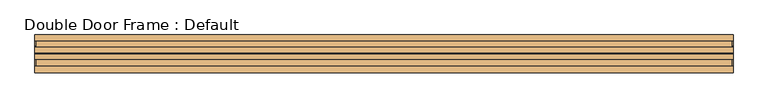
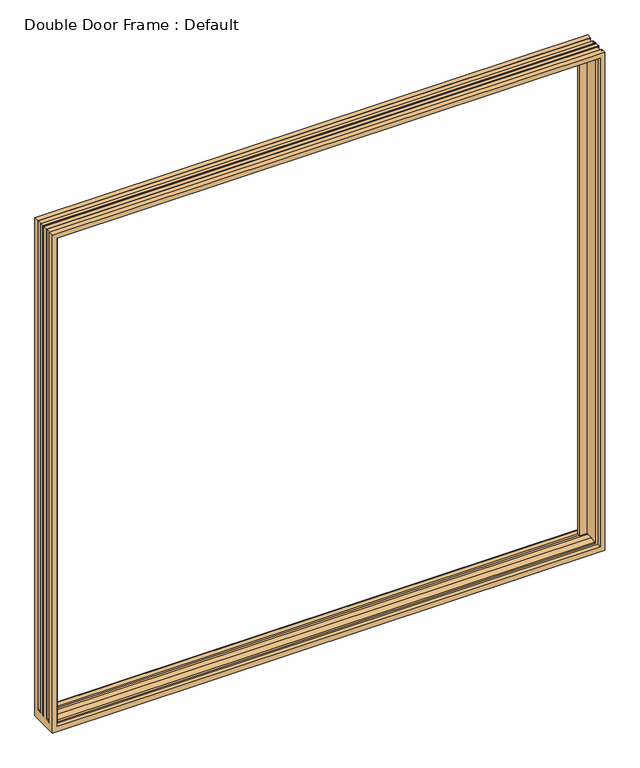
"""IFC4 building model written with IfcOpenShell, lengths in millimetres: door geometry, Double Door Frame : Default."""

from ifc_helpers import new_model, si_unit, frame, origin, place, context, project, spatial, polyline, circle_curve, ellipse_curve, source, transform, mapped, element, save
from ifc_brep_helpers import plane_surface, revolved_surface, advanced_brep


def double_door_frame_default_26f9a6da(model_context):
    return source(origin(), model_context, "Body", "AdvancedBrep", [
        advanced_brep(
        [(-1066.8, 115.8875, 0.0), (-1038.225, 115.8875, 0.0), (-1038.225, 114.3, 0.0), (1038.225, 114.3, 0.0), (1038.225, 115.8875, 0.0), (1066.8, 115.8875, 0.0), (1066.8, 0.0, 0.0), (-1066.8, 0.0, 0.0), (1066.8, 0.0, 2032.0), (-1066.8, 0.0, 2032.0), (1047.75, 0.0, 2012.95), (1047.75, 0.0, 20.6375), (-1047.75, 0.0, 20.6375), (-1047.75, 0.0, 2012.95), (-1066.8, 115.8875, 2032.0), (1066.8, 115.8875, 2032.0), (1038.225, 115.8875, 2003.425), (-1038.225, 115.8875, 2003.425), (-1038.225, 82.55, 2003.425), (-1038.225, 82.55, 36.3991071), (-1038.225, 103.1875, 34.925), (-1038.225, 114.3, 28.575), (1038.225, 82.55, 2003.425), (1038.225, 82.55, 36.3991071), (1009.65, 82.55, 36.3991071), (1009.65, 82.55, 1974.85), (-1009.65, 82.55, 1974.85), (-1009.65, 82.55, 36.3991071), (-1009.65, 69.85, 1974.85), (-1009.65, 69.85, 35.8775), (-1009.65, 73.025, 36.5125), (-1009.65, 80.9625, 36.5125), (1009.65, 69.85, 1974.85), (1009.65, 69.85, 35.8775), (1038.225, 69.85, 35.8775), (1038.225, 69.85, 2003.425), (-1038.225, 69.85, 2003.425), (-1038.225, 69.85, 35.8775), (-1038.225, 14.2875, 2003.425), (-1038.225, 14.2875, 28.575), (-1038.225, 19.05, 30.1625), (-1038.225, 41.275, 34.925), (-1038.225, 65.0875, 34.925), (1047.75, 14.2875, 2012.95), (-1047.75, 14.2875, 2012.95), (-1047.75, 14.2875, 22.225), (1047.75, 14.2875, 22.225), (1038.225, 14.2875, 2003.425), (1038.225, 14.2875, 28.575), (1038.225, 114.3, 28.575), (1038.225, 103.1875, 34.925), (1009.65, 80.9625, 36.5125), (1009.65, 73.025, 36.5125), (1038.225, 65.0875, 34.925), (1038.225, 41.275, 34.925), (1038.225, 19.05, 30.1625), (-1062.0375, 19.05, 30.1625), (-1064.815625, 19.05, 30.1625), (-1064.021875, 17.4625, 29.6333333), (-1062.0375, 17.4625, 29.6333333), (1064.815625, 19.05, 30.1625), (1062.0375, 19.05, 30.1625), (1062.0375, 17.4625, 29.6333333), (1064.021875, 17.4625, 29.6333333), (1066.8, 20.6375, 30.5026786), (1066.8, 41.275, 34.925), (1065.609375, 41.275, 34.925), (1062.0375, 41.275, 34.925), (1065.609375, 20.6375, 30.5026786), (-1066.8, 41.275, 34.925), (-1066.8, 20.6375, 30.5026786), (-1065.609375, 20.6375, 30.5026786), (-1062.0375, 41.275, 34.925), (-1065.609375, 41.275, 34.925), (1066.8, 57.15, 34.925), (1066.8, 61.9125, 34.925), (1065.2125, 61.9125, 34.925), (1065.2125, 57.15, 34.925), (-1066.8, 61.9125, 34.925), (-1066.8, 57.15, 34.925), (-1065.2125, 57.15, 34.925), (-1065.2125, 61.9125, 34.925), (-1062.0375, 44.45, 34.925), (-1064.021875, 44.45, 34.925), (1064.021875, 44.45, 34.925), (1062.0375, 44.45, 34.925), (1066.8, 77.7875, 36.5125), (1066.8, 80.9625, 36.5125), (1062.0375, 80.9625, 36.5125), (1062.0375, 74.6125, 36.5125), (1064.021875, 74.6125, 36.5125), (1065.609375, 77.7875, 36.5125), (-1066.8, 80.9625, 36.5125), (-1066.8, 77.7875, 36.5125), (-1065.609375, 77.7875, 36.5125), (-1064.021875, 74.6125, 36.5125), (-1062.0375, 74.6125, 36.5125), (-1062.0375, 80.9625, 36.5125), (1066.8, 98.425, 35.2651786), (1065.609375, 98.425, 35.2651786), (1064.021875, 101.6, 35.0383929), (1062.0375, 101.6, 35.0383929), (-1066.8, 98.425, 35.2651786), (-1062.0375, 101.6, 35.0383929), (-1064.021875, 101.6, 35.0383929), (-1065.609375, 98.425, 35.2651786), (1066.8, 98.425, 2032.0), (1066.8, 77.7875, 2032.0), (1066.8, 61.9125, 2032.0), (1066.8, 57.15, 2032.0), (1066.8, 41.275, 2032.0), (1066.8, 20.6375, 2032.0), (-1066.8, 20.6375, 2032.0), (-1066.8, 41.275, 2032.0), (-1066.8, 57.15, 2032.0), (-1066.8, 61.9125, 2032.0), (-1066.8, 77.7875, 2032.0), (-1066.8, 98.425, 2032.0), (-1065.609375, 20.6375, 2030.809375), (-1064.021875, 17.4625, 2029.221875), (1064.021875, 17.4625, 2029.221875), (1062.0375, 17.4625, 2027.2375), (-1062.0375, 17.4625, 2027.2375), (-1062.0375, 44.45, 2027.2375), (1062.0375, 44.45, 2027.2375), (1065.609375, 20.6375, 2030.809375), (-1065.609375, 41.275, 2030.809375), (1065.609375, 41.275, 2030.809375), (1065.2125, 57.15, 2030.4125), (-1065.2125, 57.15, 2030.4125), (-1065.2125, 61.9125, 2030.4125), (1065.2125, 61.9125, 2030.4125), (1064.021875, 44.45, 2029.221875), (-1064.021875, 44.45, 2029.221875), (1065.609375, 77.7875, 2030.809375), (-1065.609375, 77.7875, 2030.809375), (-1064.021875, 74.6125, 2029.221875), (1064.021875, 74.6125, 2029.221875), (1062.0375, 74.6125, 2027.2375), (-1062.0375, 74.6125, 2027.2375), (-1062.0375, 101.6, 2027.2375), (1062.0375, 101.6, 2027.2375), (1064.021875, 101.6, 2029.221875), (-1064.021875, 101.6, 2029.221875), (-1065.609375, 98.425, 2030.809375), (1065.609375, 98.425, 2030.809375)],
        [
            (0, 1),
            (1, 2),
            (2, 3),
            (3, 4),
            (4, 5),
            (5, 6),
            (6, 7),
            (7, 0),
            (6, 8),
            (8, 9),
            (9, 7),
            (10, 11),
            (11, 12),
            (12, 13),
            (13, 10),
            (0, 14),
            (14, 15),
            (15, 5),
            (4, 16),
            (16, 17),
            (17, 1),
            (17, 18),
            (18, 19),
            (19, 20),
            (20, 21),
            (21, 2),
            (18, 22),
            (22, 23),
            (23, 24),
            (24, 25),
            (25, 26),
            (26, 27),
            (27, 19),
            (26, 28),
            (28, 29),
            (29, 30),
            (30, 31),
            (31, 27),
            (28, 32),
            (32, 33),
            (33, 34),
            (34, 35),
            (35, 36),
            (36, 37),
            (37, 29),
            (36, 38),
            (38, 39),
            (39, 40),
            (40, 41),
            (41, 42),
            (42, 37),
            (43, 44),
            (44, 45),
            (45, 46),
            (46, 43),
            (38, 47),
            (47, 48),
            (48, 39),
            (44, 13),
            (12, 45),
            (10, 43),
            (46, 11),
            (3, 49),
            (49, 50),
            (50, 23),
            (22, 16),
            (32, 25),
            (24, 51),
            (51, 52),
            (52, 33),
            (47, 35),
            (34, 53),
            (53, 54),
            (54, 55),
            (55, 48),
            (21, 49),
            (55, 40),
            (56, 57),
            (57, 58),
            (58, 59),
            (59, 56),
            (60, 61),
            (61, 62),
            (62, 63),
            (63, 60),
            (54, 41),
            (64, 65),
            (65, 66),
            (66, 67),
            (67, 61),
            (60, 68),
            (68, 64),
            (69, 70),
            (70, 71),
            (71, 57),
            (56, 72),
            (72, 73),
            (73, 69),
            (74, 75),
            (75, 76),
            (76, 77, circle_curve(frame((1061.088054, 59.53125, 34.925), z_axis=(0.0, 0.0, 1.0), x_axis=(1.0, 0.0, 0.0)), 4.7625)),
            (77, 74),
            (78, 79),
            (79, 80),
            (80, 81, circle_curve(frame((-1061.088054, 59.53125, 34.925), z_axis=(0.0, 0.0, 1.0), x_axis=(-1.0, 0.0, 0.0)), 4.7625)),
            (81, 78),
            (53, 42),
            (72, 82),
            (82, 83),
            (83, 73),
            (66, 84),
            (84, 85),
            (85, 67),
            (52, 30),
            (51, 31),
            (86, 87),
            (87, 88),
            (88, 89),
            (89, 90),
            (90, 91),
            (91, 86),
            (92, 93),
            (93, 94),
            (94, 95),
            (95, 96),
            (96, 97),
            (97, 92),
            (50, 20),
            (87, 98),
            (98, 99),
            (99, 100),
            (100, 101),
            (101, 88),
            (102, 92),
            (97, 103),
            (103, 104),
            (104, 105),
            (105, 102),
            (15, 106),
            (106, 98),
            (86, 107),
            (107, 108),
            (108, 75),
            (74, 109),
            (109, 110),
            (110, 65),
            (64, 111),
            (111, 8),
            (9, 112),
            (112, 70),
            (69, 113),
            (113, 114),
            (114, 79),
            (78, 115),
            (115, 116),
            (116, 93),
            (102, 117),
            (117, 14),
            (118, 119),
            (119, 58),
            (71, 118),
            (119, 120),
            (120, 63),
            (62, 121),
            (121, 122),
            (122, 59),
            (122, 123),
            (123, 82),
            (124, 121),
            (85, 124),
            (120, 125),
            (125, 68),
            (112, 111),
            (125, 118),
            (126, 127),
            (127, 66),
            (110, 113),
            (73, 126),
            (114, 109),
            (77, 128),
            (128, 129),
            (129, 80),
            (129, 130, ellipse_curve(frame((-1061.088054, 59.53125, 2026.288054), z_axis=(0.7071067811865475, 0.0, 0.7071067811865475), x_axis=(-0.7071067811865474, 0.0, 0.7071067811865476)), 6.7351921, 4.7625)),
            (130, 81),
            (130, 131),
            (131, 76),
            (108, 115),
            (131, 128, ellipse_curve(frame((1061.088054, 59.53125, 2026.288054), z_axis=(-0.7071067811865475, 0.0, 0.7071067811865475), x_axis=(-0.7071067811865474, 0.0, -0.7071067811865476)), 6.7351921, 4.7625)),
            (123, 124),
            (84, 132),
            (132, 133),
            (133, 83),
            (133, 126),
            (127, 132),
            (116, 107),
            (91, 134),
            (134, 135),
            (135, 94),
            (135, 136),
            (136, 95),
            (136, 137),
            (137, 90),
            (89, 138),
            (138, 139),
            (139, 96),
            (139, 140),
            (140, 103),
            (141, 138),
            (101, 141),
            (137, 134),
            (140, 141),
            (100, 142),
            (142, 143),
            (143, 104),
            (143, 144),
            (144, 105),
            (144, 145),
            (145, 99),
            (106, 117),
            (145, 142),
        ],
        [
            plane_surface(frame((-1066.8, 0.0, 0.0), z_axis=(0.0, 0.0, -1.0), x_axis=(0.0, -1.0, 0.0))),
            plane_surface(frame((-1047.75, 0.0, 0.0), z_axis=(0.0, -1.0, 0.0), x_axis=(0.0, 0.0, 1.0))),
            plane_surface(frame((-1066.8, 115.8875, 0.0), z_axis=(0.0, 1.0, 0.0), x_axis=(0.0, 0.0, 1.0))),
            plane_surface(frame((-1038.225, 115.8875, 0.0), z_axis=(1.0, 0.0, 0.0), x_axis=(0.0, 0.0, 1.0))),
            plane_surface(frame((-1038.225, 82.55, 0.0), z_axis=(0.0, 1.0, 0.0), x_axis=(0.0, 0.0, 1.0))),
            plane_surface(frame((-1009.65, 82.55, 0.0), z_axis=(1.0, 0.0, 0.0), x_axis=(0.0, 0.0, 1.0))),
            plane_surface(frame((-1009.65, 69.85, 0.0), z_axis=(0.0, -1.0, 0.0), x_axis=(0.0, 0.0, 1.0))),
            plane_surface(frame((-1038.225, 69.85, 0.0), z_axis=(1.0, 0.0, 0.0), x_axis=(0.0, 0.0, 1.0))),
            plane_surface(frame((-1038.225, 14.2875, 0.0), z_axis=(0.0, -1.0, 0.0), x_axis=(0.0, 0.0, 1.0))),
            plane_surface(frame((-1047.75, 14.2875, 0.0), z_axis=(1.0, 0.0, 0.0), x_axis=(0.0, 0.0, 1.0))),
            plane_surface(frame((1047.75, 14.2875, 2012.95), z_axis=(-1.0, 0.0, 0.0), x_axis=(0.0, 0.0, -1.0))),
            plane_surface(frame((1038.225, 115.8875, 2003.425), z_axis=(-1.0, 0.0, 0.0), x_axis=(0.0, 0.0, -1.0))),
            plane_surface(frame((1009.65, 82.55, 1974.85), z_axis=(-1.0, 0.0, 0.0), x_axis=(0.0, 0.0, -1.0))),
            plane_surface(frame((1038.225, 69.85, 2003.425), z_axis=(-1.0, 0.0, 0.0), x_axis=(0.0, 0.0, -1.0))),
            plane_surface(frame((-1038.225, 115.8875, 2003.425), z_axis=(0.0, 0.0, -1.0), x_axis=(1.0, 0.0, 0.0))),
            plane_surface(frame((-1009.65, 82.55, 1974.85), z_axis=(0.0, 0.0, -1.0), x_axis=(1.0, 0.0, 0.0))),
            plane_surface(frame((-1038.225, 69.85, 2003.425), z_axis=(0.0, 0.0, -1.0), x_axis=(1.0, 0.0, 0.0))),
            plane_surface(frame((-1047.75, 14.2875, 2012.95), z_axis=(0.0, 0.0, -1.0), x_axis=(1.0, 0.0, 0.0))),
            plane_surface(frame((-1066.8, 114.3, 28.575), z_axis=(0.0, 1.0, 0.0), x_axis=(1.0, 0.0, 0.0))),
            plane_surface(frame((-1066.8, 0.0, 20.6375), z_axis=(0.0, -0.11043152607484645, 0.993883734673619), x_axis=(1.0, 0.0, 0.0))),
            plane_surface(frame((-1066.8, 14.2875, 28.575), z_axis=(0.0, -0.3162277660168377, 0.948683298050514), x_axis=(1.0, 0.0, 0.0))),
            plane_surface(frame((-1066.8, 19.05, 30.1625), z_axis=(0.0, -0.20952908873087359, 0.9778024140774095), x_axis=(1.0, 0.0, 0.0))),
            plane_surface(frame((-1066.8, 41.275, 34.925), z_axis=(0.0, 0.0, 1.0), x_axis=(1.0, 0.0, 0.0))),
            plane_surface(frame((-1066.8, 65.0875, 34.925), z_axis=(0.0, -0.19611613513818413, 0.9805806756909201), x_axis=(1.0, 0.0, 0.0))),
            plane_surface(frame((-1066.8, 73.025, 36.5125), z_axis=(0.0, 0.0, 1.0), x_axis=(1.0, 0.0, 0.0))),
            plane_surface(frame((-1066.8, 80.9625, 36.5125), z_axis=(0.0, 0.07124704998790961, 0.997458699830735), x_axis=(1.0, 0.0, 0.0))),
            plane_surface(frame((-1066.8, 103.1875, 34.925), z_axis=(0.0, 0.4961389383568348, 0.8682431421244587), x_axis=(1.0, 0.0, 0.0))),
            plane_surface(frame((1066.8, 0.0, 2032.0), z_axis=(1.0, 0.0, 0.0), x_axis=(0.0, 0.0, -1.0))),
            plane_surface(frame((-1066.8, 0.0, 0.0), z_axis=(-1.0, 0.0, 0.0), x_axis=(0.0, 0.0, 1.0))),
            plane_surface(frame((-1065.609375, 20.6375, 0.0), z_axis=(0.8944271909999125, 0.4472135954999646, 0.0), x_axis=(0.0, 0.0, 1.0))),
            plane_surface(frame((-1064.021875, 17.4625, 0.0), z_axis=(0.0, 1.0, 0.0), x_axis=(0.0, 0.0, 1.0))),
            plane_surface(frame((-1062.0375, 17.4625, 0.0), z_axis=(-1.0, 0.0, 0.0), x_axis=(0.0, 0.0, 1.0))),
            plane_surface(frame((1062.0375, 17.4625, 2027.2375), z_axis=(1.0, 0.0, 0.0), x_axis=(0.0, 0.0, -1.0))),
            plane_surface(frame((1065.609375, 20.6375, 2030.809375), z_axis=(-0.8944271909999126, 0.44721359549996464, 0.0), x_axis=(0.0, 0.0, -1.0))),
            plane_surface(frame((-1066.8, 20.6375, 0.0), z_axis=(0.0, 1.0, 0.0), x_axis=(0.0, 0.0, 1.0))),
            plane_surface(frame((-1065.609375, 41.275, 0.0), z_axis=(0.0, -1.0, 0.0), x_axis=(0.0, 0.0, 1.0))),
            plane_surface(frame((-1066.8, 57.15, 0.0), z_axis=(0.0, 1.0, 0.0), x_axis=(0.0, 0.0, 1.0))),
            revolved_surface(polyline([(-1065.850554, 59.53125, 2031.0505540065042), (-1065.850554, 59.53125, 34.925)]), (-1061.088054, 59.53125, 0.0), (0.0, 0.0, 1.0)),
            plane_surface(frame((-1065.2125, 61.9125, 0.0), z_axis=(0.0, -1.0, 0.0), x_axis=(0.0, 0.0, 1.0))),
            revolved_surface(polyline([(1065.850554, 59.53125, 34.924999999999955), (1065.850554, 59.53125, 2031.0505540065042)]), (1061.088054, 59.53125, 2032.0), (0.0, 0.0, -1.0)),
            plane_surface(frame((-1062.0375, 44.45, 0.0), z_axis=(0.0, -1.0, 0.0), x_axis=(0.0, 0.0, 1.0))),
            plane_surface(frame((-1064.021875, 44.45, 0.0), z_axis=(0.8944271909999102, -0.44721359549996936, 0.0), x_axis=(0.0, 0.0, 1.0))),
            plane_surface(frame((1064.021875, 44.45, 2029.221875), z_axis=(-0.8944271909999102, -0.44721359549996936, 0.0), x_axis=(0.0, 0.0, -1.0))),
            plane_surface(frame((-1066.8, 77.7875, 0.0), z_axis=(0.0, 1.0, 0.0), x_axis=(0.0, 0.0, 1.0))),
            plane_surface(frame((-1065.609375, 77.7875, 0.0), z_axis=(0.8944271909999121, 0.4472135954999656, 0.0), x_axis=(0.0, 0.0, 1.0))),
            plane_surface(frame((-1064.021875, 74.6125, 0.0), z_axis=(0.0, 1.0, 0.0), x_axis=(0.0, 0.0, 1.0))),
            plane_surface(frame((-1062.0375, 74.6125, 0.0), z_axis=(-1.0, 0.0, 0.0), x_axis=(0.0, 0.0, 1.0))),
            plane_surface(frame((1062.0375, 74.6125, 2027.2375), z_axis=(1.0, 0.0, 0.0), x_axis=(0.0, 0.0, -1.0))),
            plane_surface(frame((1065.609375, 77.7875, 2030.809375), z_axis=(-0.8944271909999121, 0.4472135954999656, 0.0), x_axis=(0.0, 0.0, -1.0))),
            plane_surface(frame((-1062.0375, 101.6, 0.0), z_axis=(0.0, -1.0, 0.0), x_axis=(0.0, 0.0, 1.0))),
            plane_surface(frame((-1064.021875, 101.6, 0.0), z_axis=(0.8944271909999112, -0.44721359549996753, 0.0), x_axis=(0.0, 0.0, 1.0))),
            plane_surface(frame((-1065.609375, 98.425, 0.0), z_axis=(0.0, -1.0, 0.0), x_axis=(0.0, 0.0, 1.0))),
            plane_surface(frame((1064.021875, 101.6, 2029.221875), z_axis=(-0.8944271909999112, -0.44721359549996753, 0.0), x_axis=(0.0, 0.0, -1.0))),
            plane_surface(frame((-1066.8, 0.0, 2032.0), z_axis=(0.0, 0.0, 1.0), x_axis=(1.0, 0.0, 0.0))),
            plane_surface(frame((-1065.609375, 20.6375, 2030.809375), z_axis=(0.0, 0.447213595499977, -0.8944271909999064), x_axis=(1.0, 0.0, 0.0))),
            plane_surface(frame((-1062.0375, 17.4625, 2027.2375), z_axis=(0.0, 0.0, 1.0), x_axis=(1.0, 0.0, 0.0))),
            plane_surface(frame((-1064.021875, 44.45, 2029.221875), z_axis=(0.0, -0.447213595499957, -0.8944271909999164), x_axis=(1.0, 0.0, 0.0))),
            plane_surface(frame((-1066.8, 41.275, 2032.0), z_axis=(0.0, 0.0, 1.0), x_axis=(1.0, 0.0, 0.0))),
            revolved_surface(polyline([(1065.8505540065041, 59.53125, 2031.0505540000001), (-1065.8505540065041, 59.53125, 2031.0505540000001)]), (-1066.8, 59.53125, 2026.288054), (1.0, 0.0, 0.0)),
            plane_surface(frame((-1066.8, 61.9125, 2032.0), z_axis=(0.0, 0.0, 1.0), x_axis=(1.0, 0.0, 0.0))),
            plane_surface(frame((-1065.609375, 77.7875, 2030.809375), z_axis=(0.0, 0.44721359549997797, -0.8944271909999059), x_axis=(1.0, 0.0, 0.0))),
            plane_surface(frame((-1062.0375, 74.6125, 2027.2375), z_axis=(0.0, 0.0, 1.0), x_axis=(1.0, 0.0, 0.0))),
            plane_surface(frame((-1064.021875, 101.6, 2029.221875), z_axis=(0.0, -0.44721359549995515, -0.8944271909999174), x_axis=(1.0, 0.0, 0.0))),
            plane_surface(frame((-1066.8, 98.425, 2032.0), z_axis=(0.0, 0.0, 1.0), x_axis=(1.0, 0.0, 0.0))),
        ],
        [
            (0, [[1, 2, 3, 4, 5, 6, 7, 8]]),
            (1, [[-7, 9, 10, 11], [12, 13, 14, 15]]),
            (2, [[-1, 16, 17, 18, -5, 19, 20, 21]]),
            (3, [[-21, 22, 23, 24, 25, 26, -2]]),
            (4, [[27, 28, 29, 30, 31, 32, 33, -23]]),
            (5, [[34, 35, 36, 37, 38, -32]]),
            (6, [[39, 40, 41, 42, 43, 44, 45, -35]]),
            (7, [[46, 47, 48, 49, 50, 51, -44]]),
            (8, [[52, 53, 54, 55], [56, 57, 58, -47]]),
            (9, [[-53, 59, -14, 60]]),
            (10, [[61, -55, 62, -12]]),
            (11, [[-19, -4, 63, 64, 65, -28, 66]]),
            (12, [[67, -30, 68, 69, 70, -40]]),
            (13, [[71, -42, 72, 73, 74, 75, -57]]),
            (14, [[-20, -66, -27, -22]]),
            (15, [[-31, -67, -39, -34]]),
            (16, [[-43, -71, -56, -46]]),
            (17, [[-15, -59, -52, -61]]),
            (18, [[-3, -26, 76, -63]]),
            (19, [[-13, -62, -54, -60]]),
            (20, [[-58, -75, 77, -48]]),
            (20, [[78, 79, 80, 81]]),
            (20, [[82, 83, 84, 85]]),
            (21, [[-77, -74, 86, -49]]),
            (21, [[87, 88, 89, 90, -82, 91, 92]]),
            (21, [[93, 94, 95, -78, 96, 97, 98]]),
            (22, [[99, 100, 101, 102]]),
            (22, [[103, 104, 105, 106]]),
            (22, [[-86, -73, 107, -50]]),
            (22, [[-97, 108, 109, 110]]),
            (22, [[-89, 111, 112, 113]]),
            (23, [[-107, -72, -41, -70, 114, -36, -45, -51]]),
            (24, [[-114, -69, 115, -37]]),
            (24, [[116, 117, 118, 119, 120, 121]]),
            (24, [[122, 123, 124, 125, 126, 127]]),
            (25, [[-115, -68, -29, -65, 128, -24, -33, -38]]),
            (25, [[129, 130, 131, 132, 133, -117]]),
            (25, [[134, -127, 135, 136, 137, 138]]),
            (26, [[-76, -25, -128, -64]]),
            (27, [[-9, -6, -18, 139, 140, -129, -116, 141, 142, 143, -99, 144, 145, 146, -87, 147, 148]]),
            (28, [[-8, -11, 149, 150, -93, 151, 152, 153, -103, 154, 155, 156, -122, -134, 157, 158, -16]]),
            (29, [[159, 160, -79, -95, 161]]),
            (30, [[162, 163, -84, 164, 165, 166, -80, -160]]),
            (31, [[167, 168, -108, -96, -81, -166]]),
            (32, [[169, -164, -83, -90, -113, 170]]),
            (33, [[171, 172, -91, -85, -163]]),
            (34, [[173, -147, -92, -172, 174, -161, -94, -150]]),
            (35, [[175, 176, -88, -146, 177, -151, -98, 178]]),
            (36, [[179, -144, -102, 180, 181, 182, -104, -153]]),
            (37, [[183, 184, -105, -182]]),
            (38, [[185, 186, -100, -143, 187, -154, -106, -184]]),
            (39, [[188, -180, -101, -186]]),
            (40, [[189, -170, -112, 190, 191, 192, -109, -168]]),
            (41, [[193, -178, -110, -192]]),
            (42, [[194, -190, -111, -176]]),
            (43, [[195, -141, -121, 196, 197, 198, -123, -156]]),
            (44, [[199, 200, -124, -198]]),
            (45, [[201, 202, -119, 203, 204, 205, -125, -200]]),
            (46, [[206, 207, -135, -126, -205]]),
            (47, [[208, -203, -118, -133, 209]]),
            (48, [[210, -196, -120, -202]]),
            (49, [[211, -209, -132, 212, 213, 214, -136, -207]]),
            (50, [[215, 216, -137, -214]]),
            (51, [[217, 218, -130, -140, 219, -157, -138, -216]]),
            (52, [[220, -212, -131, -218]]),
            (53, [[-10, -148, -173, -149]]),
            (54, [[-174, -171, -162, -159]]),
            (55, [[-165, -169, -189, -167]]),
            (56, [[-191, -194, -175, -193]]),
            (57, [[-177, -145, -179, -152]]),
            (58, [[-181, -188, -185, -183]]),
            (59, [[-187, -142, -195, -155]]),
            (60, [[-197, -210, -201, -199]]),
            (61, [[-204, -208, -211, -206]]),
            (62, [[-213, -220, -217, -215]]),
            (63, [[-17, -158, -219, -139]]),
        ],
    ),
    ])


if __name__ == "__main__":
    model = new_model("IFC4")
    model_context = context("Model", 3, world=origin())
    ifc_project = project(units=[si_unit("LENGTHUNIT", "METRE", prefix="MILLI")], contexts=[model_context])
    site = spatial("IfcSite", under=ifc_project)
    building = spatial("IfcBuilding", under=site)
    placement = place(None, origin())
    double_door_frame_default_shape = double_door_frame_default_26f9a6da(model_context)
    element("IfcDoor", 1, ObjectType="Double Door Frame : Default", at=placement, inside=building, context=model_context, shape_type="MappedRepresentation", body=[
        mapped(double_door_frame_default_shape, transform((0.0, 0.0, 0.0), x_axis=(1.0, 0.0, 0.0), y_axis=(0.0, 1.0, 0.0), z_axis=(0.0, 0.0, 1.0))),
    ])
    save(model, "model.ifc")
